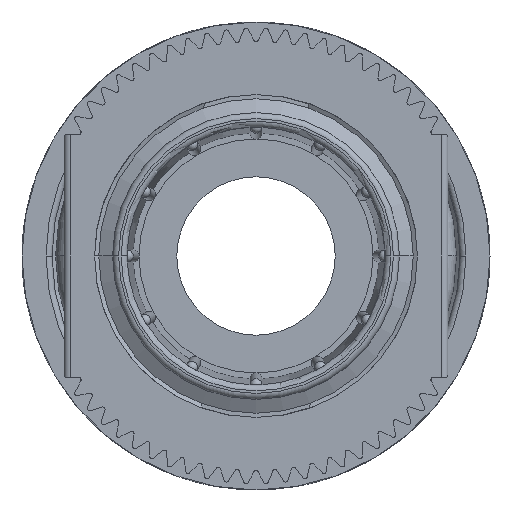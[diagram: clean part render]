
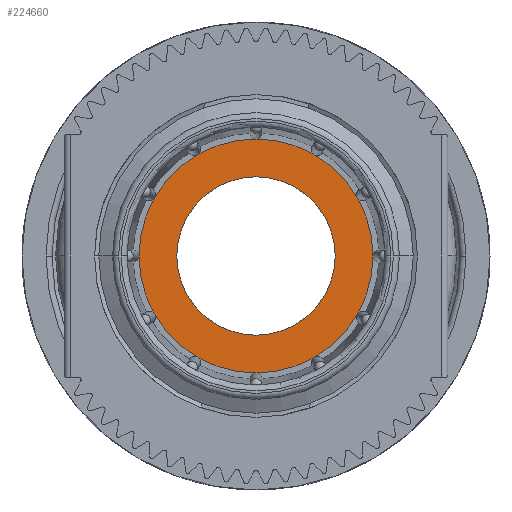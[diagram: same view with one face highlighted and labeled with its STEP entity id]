
A CAD part, left-side view. The second image highlights one B-rep face of the part: STEP entity #224660.
In plain terms, the highlighted planar face has unit normal (-1, 0, 0).
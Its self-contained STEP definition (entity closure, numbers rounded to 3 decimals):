
#224040=CARTESIAN_POINT('',(31.643,-0.278,
0.));
#224050=DIRECTION('',(-1.,-0.,-0.));
#224060=DIRECTION('',(0.,-1.,0.));
#224070=AXIS2_PLACEMENT_3D('',#224040,#224050,#224060);
#224080=CIRCLE('',#224070,12.);
#224090=CARTESIAN_POINT('',(31.643,-0.278,12.));
#224100=VERTEX_POINT('',#224090);
#224110=CARTESIAN_POINT('',(31.643,11.722,
0.));
#224120=VERTEX_POINT('',#224110);
#224130=EDGE_CURVE('',#224100,#224120,#224080,.T.);
#224270=CARTESIAN_POINT('',(31.643,-12.278,
0.));
#224280=VERTEX_POINT('',#224270);
#224310=EDGE_CURVE('',#224280,#224100,#224080,.T.);
#224360=CARTESIAN_POINT('',(31.643,12.322,-12.6));
#224370=DIRECTION('',(-1.,0.,0.));
#224380=DIRECTION('',(0.,1.,0.));
#224390=AXIS2_PLACEMENT_3D('',#224360,#224370,#224380);
#224400=PLANE('',#224390);
#224410=EDGE_CURVE('',#224120,#224280,#224080,.T.);
#224420=ORIENTED_EDGE('',*,*,#224410,.T.);
#224430=ORIENTED_EDGE('',*,*,#224130,.T.);
#224440=ORIENTED_EDGE('',*,*,#224310,.T.);
#224450=EDGE_LOOP('',(#224440,#224430,#224420));
#224460=FACE_OUTER_BOUND('',#224450,.T.);
#224470=CARTESIAN_POINT('',(31.643,-0.278,
0.));
#224480=DIRECTION('',(-1.,-0.,-0.));
#224490=DIRECTION('',(0.,-1.,0.));
#224500=AXIS2_PLACEMENT_3D('',#224470,#224480,#224490);
#224510=CIRCLE('',#224500,6.6);
#224520=CARTESIAN_POINT('',(31.643,-0.278,
6.6));
#224530=VERTEX_POINT('',#224520);
#224540=CARTESIAN_POINT('',(31.643,6.322,
0.));
#224550=VERTEX_POINT('',#224540);
#224560=EDGE_CURVE('',#224530,#224550,#224510,.T.);
#224570=ORIENTED_EDGE('',*,*,#224560,.F.);
#224580=CARTESIAN_POINT('',(31.643,-6.878,
0.));
#224590=VERTEX_POINT('',#224580);
#224600=EDGE_CURVE('',#224550,#224590,#224510,.T.);
#224610=ORIENTED_EDGE('',*,*,#224600,.F.);
#224620=EDGE_CURVE('',#224590,#224530,#224510,.T.);
#224630=ORIENTED_EDGE('',*,*,#224620,.F.);
#224640=EDGE_LOOP('',(#224630,#224610,#224570));
#224650=FACE_BOUND('',#224640,.T.);
#224660=ADVANCED_FACE('',(#224460,#224650),#224400,.T.);
